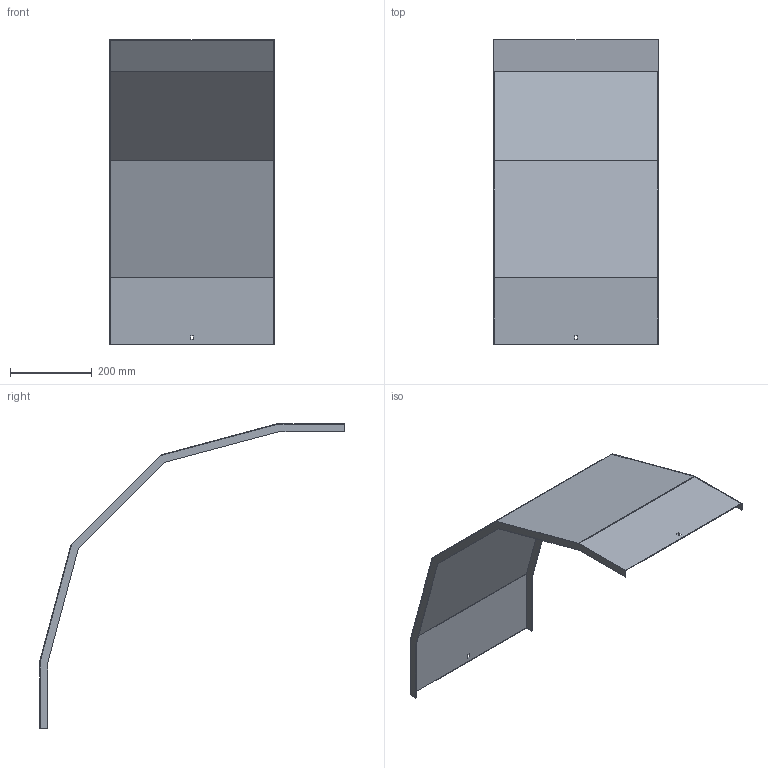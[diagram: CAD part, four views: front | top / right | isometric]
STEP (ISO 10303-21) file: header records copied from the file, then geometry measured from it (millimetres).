
FILE_DESCRIPTION (( 'STEP AP214' ), '1' );
FILE_NAME ('33N5C400.step', '2025-02-21T10:42:48', ( '' ), ( '' ), 'SwSTEP 2.0', 'SolidWorks 2023', '' );
FILE_SCHEMA (( 'AUTOMOTIVE_DESIGN' ));
Length unit declared in the file: millimetre
Products named in the file (1): 33N5C400
Bounding box: 403 x 745.38 x 745.38 mm (x, y, z)
Volume: 809265.1 mm3; surface area: 1084027.8 mm2
Topology: 1 solids, 1 shells, 34 faces, 96 edges, 64 vertices
Faces by surface type: plane 34
Entity records: 1111 total; most frequent: CARTESIAN_POINT 195, ORIENTED_EDGE 192, DIRECTION 166, LINE 96, VECTOR 96, EDGE_CURVE 96, VERTEX_POINT 64, EDGE_LOOP 38
